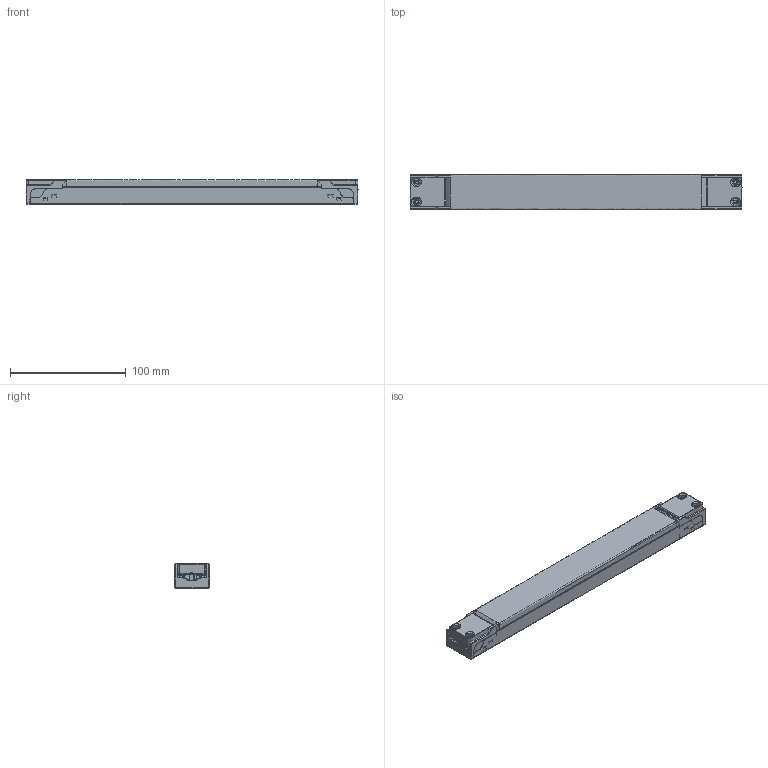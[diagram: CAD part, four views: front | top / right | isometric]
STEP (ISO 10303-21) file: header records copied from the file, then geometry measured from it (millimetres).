
FILE_DESCRIPTION(/* description */ (''),/* implementation_level */ '2;1');
FILE_NAME(/* name */ 'MS-30-24 DALI-2 LI',/* time_stamp */ '2023-07-06T16:17:53+08:00',/* author */ (''),/* organization */ (''),/* preprocessor_version */ 'ST-DEVELOPER v16.5',/* originating_system */ '',/* authorisation */ '');
FILE_SCHEMA (('AUTOMOTIVE_DESIGN'));
Length unit declared in the file: millimetre
Products named in the file (1): Document
Bounding box: 287.05 x 30.6 x 21.13 mm (x, y, z)
Volume: 36212.9 mm3; surface area: 89187.6 mm2
Topology: 13 solids, 13 shells, 1452 faces, 3745 edges, 2268 vertices
Faces by surface type: plane 939, bspline 513
Entity records: 52312 total; most frequent: CARTESIAN_POINT 28221, ORIENTED_EDGE 7490, EDGE_CURVE 3745, B_SPLINE_CURVE_WITH_KNOTS 2914, VERTEX_POINT 2396, EDGE_LOOP 1579, ADVANCED_FACE 1452, FACE_OUTER_BOUND 1452
